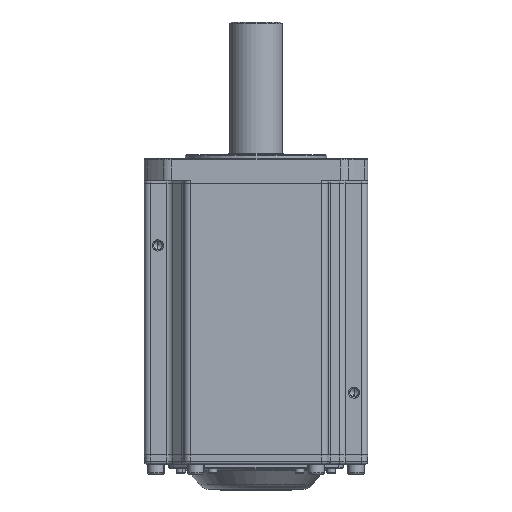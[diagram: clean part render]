
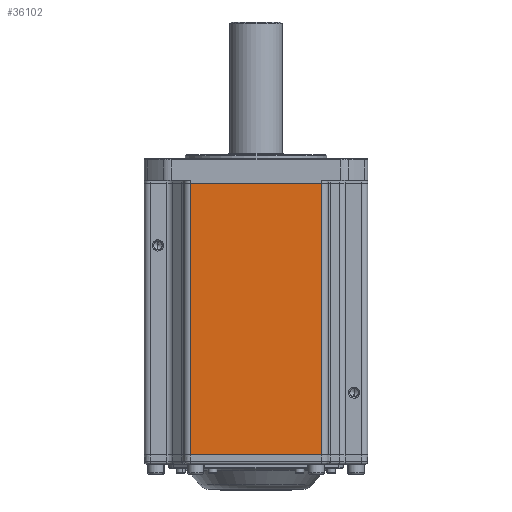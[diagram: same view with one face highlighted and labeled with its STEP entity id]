
A CAD part, front view. The second image highlights one B-rep face of the part: STEP entity #36102.
In plain terms, the highlighted planar face has unit normal (0, -1, 0).
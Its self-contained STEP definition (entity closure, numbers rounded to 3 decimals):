
#5133 = FACE_OUTER_BOUND ( 'NONE', #39412, .T. ) ;
#7163 = DIRECTION ( 'NONE',  ( 0., 1., 0. ) ) ;
#9408 = LINE ( 'NONE', #25173, #52498 ) ;
#10285 = DIRECTION ( 'NONE',  ( 1., 0., 0. ) ) ;
#14227 = ORIENTED_EDGE ( 'NONE', *, *, #34897, .T. ) ;
#14334 = VERTEX_POINT ( 'NONE', #51138 ) ;
#14898 = VERTEX_POINT ( 'NONE', #38093 ) ;
#16017 = CARTESIAN_POINT ( 'NONE',  ( -52.974, -89.007, -896.673 ) ) ;
#17963 = VERTEX_POINT ( 'NONE', #58695 ) ;
#21960 = AXIS2_PLACEMENT_3D ( 'NONE', #41385, #7163, #41589 ) ;
#22609 = ORIENTED_EDGE ( 'NONE', *, *, #46002, .T. ) ;
#25173 = CARTESIAN_POINT ( 'NONE',  ( -154.318, -89.007, -115.273 ) ) ;
#31506 = VECTOR ( 'NONE', #58738, 1000. ) ;
#32304 = CARTESIAN_POINT ( 'NONE',  ( 53.026, -89.007, -896.673 ) ) ;
#32584 = PLANE ( 'NONE',  #21960 ) ;
#33545 = ORIENTED_EDGE ( 'NONE', *, *, #58444, .T. ) ;
#34897 = EDGE_CURVE ( 'NONE', #14334, #17963, #59150, .T. ) ;
#35446 = DIRECTION ( 'NONE',  ( 0., 0., -1. ) ) ;
#36102 = ADVANCED_FACE ( 'NONE', ( #5133 ), #32584, .F. ) ;
#38093 = CARTESIAN_POINT ( 'NONE',  ( -52.974, -89.007, -115.273 ) ) ;
#39412 = EDGE_LOOP ( 'NONE', ( #54967, #22609, #33545, #14227 ) ) ;
#41385 = CARTESIAN_POINT ( 'NONE',  ( 58.026, -89.007, -896.673 ) ) ;
#41430 = VECTOR ( 'NONE', #51850, 1000. ) ;
#41589 = DIRECTION ( 'NONE',  ( 0., 0., -1. ) ) ;
#42197 = LINE ( 'NONE', #32304, #41430 ) ;
#42448 = VECTOR ( 'NONE', #35446, 1000. ) ;
#46002 = EDGE_CURVE ( 'NONE', #14898, #50640, #9408, .T. ) ;
#50640 = VERTEX_POINT ( 'NONE', #53301 ) ;
#50931 = EDGE_CURVE ( 'NONE', #17963, #14898, #59356, .T. ) ;
#51138 = CARTESIAN_POINT ( 'NONE',  ( 53.026, -89.007, 103.327 ) ) ;
#51850 = DIRECTION ( 'NONE',  ( 0., 0., 1. ) ) ;
#52498 = VECTOR ( 'NONE', #10285, 1000. ) ;
#53301 = CARTESIAN_POINT ( 'NONE',  ( 53.026, -89.007, -115.273 ) ) ;
#54967 = ORIENTED_EDGE ( 'NONE', *, *, #50931, .T. ) ;
#58444 = EDGE_CURVE ( 'NONE', #50640, #14334, #42197, .T. ) ;
#58695 = CARTESIAN_POINT ( 'NONE',  ( -52.974, -89.007, 103.327 ) ) ;
#58738 = DIRECTION ( 'NONE',  ( -1., 0., 0. ) ) ;
#59144 = CARTESIAN_POINT ( 'NONE',  ( 58.026, -89.007, 103.327 ) ) ;
#59150 = LINE ( 'NONE', #59144, #31506 ) ;
#59356 = LINE ( 'NONE', #16017, #42448 ) ;
